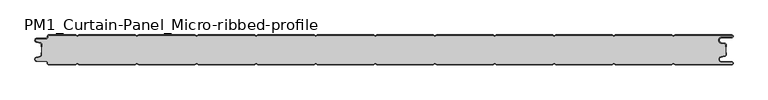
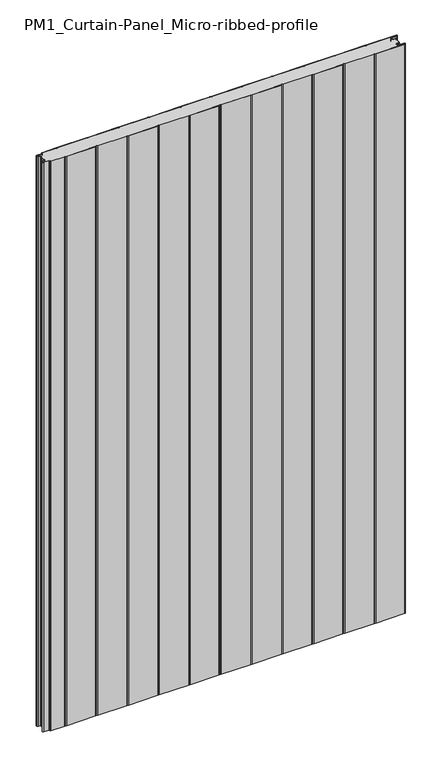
"""IFC4 building model written with IfcOpenShell, lengths in millimetres: plate geometry, PM1_Curtain-Panel_Micro-ribbed-profile : ACH_PM1_Stone-wool-Panel_50M."""

from ifc_helpers import new_model, si_unit, point, frame_2d, origin, origin_with_axes, place, context, project, spatial, polyline, circle_curve, trimmed, segment, composite_curve, outline, extrude, source, transform, mapped, element, save


def pm1_curtain_panel_micro_ribbed_profile_67f7228b(model_context):
    return source(origin(), model_context, "Body", "SweptSolid", [
        extrude(outline(composite_curve([segment(trimmed(circle_curve(frame_2d((-577.0, -15.878557)), 2.0), [point((-575.0, -15.878557))], [point((-576.5500978, -13.9298169))], True, "CARTESIAN"), True, "CONTINUOUS"), segment(polyline([(-576.5500978, -13.9298169), (-582.7098239, -12.507732)]), True, "CONTINUOUS"), segment(trimmed(circle_curve(frame_2d((-581.9, -9.0)), 3.6), [point((-582.7098239, -12.507732))], [point((-581.9, -5.4))], False, "CARTESIAN"), True, "CONTINUOUS"), segment(polyline([(-581.9, -5.4), (-566.4, -5.4)]), True, "CONTINUOUS"), segment(trimmed(circle_curve(frame_2d((-566.4, -3.4)), 2.0), [point((-566.4, -5.4))], [point((-564.4, -3.4))], True, "CARTESIAN"), True, "CONTINUOUS"), segment(polyline([(-564.4, -3.4), (-564.4, -2.0)]), True, "CONTINUOUS"), segment(trimmed(circle_curve(frame_2d((-562.4, -2.0)), 2.0), [point((-564.4, -2.0))], [point((-562.4, 0.0))], False, "CARTESIAN"), True, "CONTINUOUS"), segment(polyline([(-562.4, 0.0), (-517.0999995, 0.0), (-514.4, -1.5588455), (-511.7000005, 0.0), (-417.0999995, 0.0), (-414.4, -1.5588455), (-411.7000005, 0.0), (-317.0999995, 0.0), (-314.4, -1.5588455), (-311.7000005, 0.0), (-217.0999995, 0.0), (-214.4, -1.5588455), (-211.7000005, 0.0), (-117.0999995, 0.0), (-114.4, -1.5588455), (-111.7000005, 0.0), (-17.0999995, 0.0), (-14.4, -1.5588455), (-11.7000005, 0.0), (82.9000005, 0.0), (85.6, -1.5588455), (88.2999995, 0.0), (182.9000005, 0.0), (185.6, -1.5588455), (188.2999995, 0.0), (282.9000005, 0.0), (285.6, -1.5588455), (288.2999995, 0.0), (382.9000005, 0.0), (385.6, -1.5588455), (388.2999995, 0.0), (482.9000005, 0.0), (485.6, -1.5588455), (488.2999995, 0.0), (583.1, 0.0)]), True, "CONTINUOUS"), segment(trimmed(circle_curve(frame_2d((583.1, -2.5)), 2.5), [point((583.1, 0.0))], [point((583.1, -5.0))], False, "CARTESIAN"), True, "CONTINUOUS"), segment(polyline([(583.1, -5.0), (566.1, -5.0)]), True, "CONTINUOUS"), segment(trimmed(circle_curve(frame_2d((566.1, -9.0)), 4.0), [point((566.1, -5.0))], [point((565.405407, -12.939231))], True, "CARTESIAN"), True, "CONTINUOUS"), segment(polyline([(565.405407, -12.939231), (571.8514855, -14.0758491)]), True, "CONTINUOUS"), segment(trimmed(circle_curve(frame_2d((571.4, -16.6363492)), 2.6), [point((571.8514855, -14.0758491))], [point((574.0, -16.6363492))], False, "CARTESIAN"), True, "CONTINUOUS"), segment(polyline([(574.0, -16.6363492), (574.0, -20.0), (573.2, -20.0), (573.2, -16.6363492)]), True, "CONTINUOUS"), segment(trimmed(circle_curve(frame_2d((571.4, -16.6363492)), 1.8), [point((573.2, -16.6363492))], [point((571.7125669, -14.8636953))], True, "CARTESIAN"), True, "CONTINUOUS"), segment(polyline([(571.7125669, -14.8636953), (565.2664884, -13.7270772)]), True, "CONTINUOUS"), segment(trimmed(circle_curve(frame_2d((566.1, -9.0)), 4.8), [point((565.2664884, -13.7270772))], [point((566.1, -4.2))], False, "CARTESIAN"), True, "CONTINUOUS"), segment(polyline([(566.1, -4.2), (583.1, -4.2)]), True, "CONTINUOUS"), segment(trimmed(circle_curve(frame_2d((583.1, -2.5)), 1.7), [point((583.1, -4.2))], [point((583.1, -0.8))], True, "CARTESIAN"), True, "CONTINUOUS"), segment(polyline([(583.1, -0.8), (488.5143588, -0.8), (485.6, -2.482606), (482.6856412, -0.8), (388.5143588, -0.8), (385.6, -2.482606), (382.6856412, -0.8), (288.5143588, -0.8), (285.6, -2.482606), (282.6856412, -0.8), (188.5143588, -0.8), (185.6, -2.482606), (182.6856412, -0.8), (88.5143588, -0.8), (85.6, -2.482606), (82.6856412, -0.8), (-11.4856412, -0.8), (-14.4, -2.482606), (-17.3143588, -0.8), (-111.4856412, -0.8), (-114.4, -2.482606), (-117.3143588, -0.8), (-211.4856412, -0.8), (-214.4, -2.482606), (-217.3143588, -0.8), (-311.4856412, -0.8), (-314.4, -2.482606), (-317.3143588, -0.8), (-411.4856412, -0.8), (-414.4, -2.482606), (-417.3143588, -0.8), (-511.4856412, -0.8), (-514.4, -2.482606), (-517.3143588, -0.8), (-562.4, -0.8)]), True, "CONTINUOUS"), segment(trimmed(circle_curve(frame_2d((-562.4, -2.0)), 1.2), [point((-562.4, -0.8))], [point((-563.6, -2.0))], True, "CARTESIAN"), True, "CONTINUOUS"), segment(polyline([(-563.6, -2.0), (-563.6, -3.4)]), True, "CONTINUOUS"), segment(trimmed(circle_curve(frame_2d((-566.4, -3.4)), 2.8), [point((-563.6, -3.4))], [point((-566.4, -6.2))], False, "CARTESIAN"), True, "CONTINUOUS"), segment(polyline([(-566.4, -6.2), (-581.9, -6.2)]), True, "CONTINUOUS"), segment(trimmed(circle_curve(frame_2d((-581.9, -9.0)), 2.8), [point((-581.9, -6.2))], [point((-582.529863, -11.7282362))], True, "CARTESIAN"), True, "CONTINUOUS"), segment(polyline([(-582.529863, -11.7282362), (-576.370137, -13.150321)]), True, "CONTINUOUS"), segment(trimmed(circle_curve(frame_2d((-577.0, -15.878557)), 2.8), [point((-576.370137, -13.150321))], [point((-574.2, -15.878557))], False, "CARTESIAN"), True, "CONTINUOUS"), segment(polyline([(-574.2, -15.878557), (-574.2, -20.0), (-575.0, -20.0), (-575.0, -15.878557)]), True, "CONTINUOUS")], self_intersect=False)), origin_with_axes(), (0.0, 0.0, 1.0), 1945.7507136),
        extrude(outline(composite_curve([segment(polyline([(-574.2, -34.1214426), (-574.2, -15.8785573)]), True, "CONTINUOUS"), segment(trimmed(circle_curve(frame_2d((-577.0, -15.8785573)), 2.8), [point((-574.2, -15.8785573))], [point((-576.370137, -13.1503212))], True, "CARTESIAN"), True, "CONTINUOUS"), segment(polyline([(-576.370137, -13.1503212), (-582.5298631, -11.7282362)]), True, "CONTINUOUS"), segment(trimmed(circle_curve(frame_2d((-581.9, -9.0)), 2.8), [point((-582.5298631, -11.7282362))], [point((-581.9, -6.2))], False, "CARTESIAN"), True, "CONTINUOUS"), segment(polyline([(-581.9, -6.2), (-566.4000001, -6.2)]), True, "CONTINUOUS"), segment(trimmed(circle_curve(frame_2d((-566.4000001, -3.4)), 2.8), [point((-566.4000001, -6.2))], [point((-563.6000001, -3.4))], True, "CARTESIAN"), True, "CONTINUOUS"), segment(polyline([(-563.6000001, -3.4), (-563.6000001, -2.0)]), True, "CONTINUOUS"), segment(trimmed(circle_curve(frame_2d((-562.4000001, -2.0)), 1.2), [point((-563.6000001, -2.0))], [point((-562.4000001, -0.8))], False, "CARTESIAN"), True, "CONTINUOUS"), segment(polyline([(-562.4000001, -0.8), (-517.3143589, -0.8), (-514.4000001, -2.482606), (-511.4856412, -0.8), (-417.3143589, -0.8), (-414.4000001, -2.482606), (-411.4856412, -0.8), (-317.3143589, -0.8), (-314.4000001, -2.482606), (-311.4856412, -0.8), (-217.3143589, -0.8), (-214.4000001, -2.482606), (-211.4856412, -0.8), (-117.3143589, -0.8), (-114.4000001, -2.482606), (-111.4856412, -0.8), (-17.3143589, -0.8), (-14.4000001, -2.482606), (-11.4856412, -0.8), (82.6856411, -0.8), (85.5999999, -2.482606), (88.5143588, -0.8), (182.6856411, -0.8), (185.5999999, -2.482606), (188.5143588, -0.8), (282.6856411, -0.8), (285.5999999, -2.482606), (288.5143588, -0.8), (382.6856411, -0.8), (385.5999999, -2.482606), (388.5143588, -0.8), (482.6856411, -0.8), (485.6, -2.482606), (488.5143588, -0.8), (583.1, -0.8)]), True, "CONTINUOUS"), segment(trimmed(circle_curve(frame_2d((583.1, -2.5)), 1.7), [point((583.1, -0.8))], [point((583.1, -4.2))], False, "CARTESIAN"), True, "CONTINUOUS"), segment(polyline([(583.1, -4.2), (566.1, -4.2)]), True, "CONTINUOUS"), segment(trimmed(circle_curve(frame_2d((566.1, -9.0)), 4.8), [point((566.1, -4.2))], [point((565.2664883, -13.7270771))], True, "CARTESIAN"), True, "CONTINUOUS"), segment(polyline([(565.2664883, -13.7270771), (571.7125668, -14.8636953)]), True, "CONTINUOUS"), segment(trimmed(circle_curve(frame_2d((571.4, -16.6363492)), 1.8), [point((571.7125668, -14.8636953))], [point((573.2, -16.6363492))], False, "CARTESIAN"), True, "CONTINUOUS"), segment(polyline([(573.2, -16.6363492), (573.2, -33.3636508)]), True, "CONTINUOUS"), segment(trimmed(circle_curve(frame_2d((571.4, -33.3636508)), 1.8), [point((573.2, -33.3636508))], [point((571.7125668, -35.1363047))], False, "CARTESIAN"), True, "CONTINUOUS"), segment(polyline([(571.7125668, -35.1363047), (565.2664883, -36.2729229)]), True, "CONTINUOUS"), segment(trimmed(circle_curve(frame_2d((566.1, -41.0)), 4.8), [point((565.2664883, -36.2729229))], [point((566.1, -45.8))], True, "CARTESIAN"), True, "CONTINUOUS"), segment(polyline([(566.1, -45.8), (583.1, -45.8)]), True, "CONTINUOUS"), segment(trimmed(circle_curve(frame_2d((583.1, -47.5)), 1.7), [point((583.1, -45.8))], [point((583.1, -49.2))], False, "CARTESIAN"), True, "CONTINUOUS"), segment(polyline([(583.1, -49.2), (488.5143588, -49.2), (485.6, -47.517394), (482.6856411, -49.2), (388.5143588, -49.2), (385.5999999, -47.517394), (382.6856411, -49.2), (288.5143588, -49.2), (285.5999999, -47.517394), (282.6856411, -49.2), (188.5143588, -49.2), (185.5999999, -47.517394), (182.6856411, -49.2), (88.5143588, -49.2), (85.5999999, -47.517394), (82.6856411, -49.2), (-11.4856412, -49.2), (-14.4000001, -47.517394), (-17.3143589, -49.2), (-111.4856412, -49.2), (-114.4000001, -47.517394), (-117.3143589, -49.2), (-211.4856412, -49.2), (-214.4000001, -47.517394), (-217.3143589, -49.2), (-311.4856412, -49.2), (-314.4000001, -47.517394), (-317.3143589, -49.2), (-411.4856412, -49.2), (-414.4000001, -47.517394), (-417.3143589, -49.2), (-511.4856412, -49.2), (-514.4000001, -47.517394), (-517.3143589, -49.2), (-562.4000001, -49.2)]), True, "CONTINUOUS"), segment(trimmed(circle_curve(frame_2d((-562.4000001, -48.0)), 1.2), [point((-562.4000001, -49.2))], [point((-563.6000001, -48.0))], False, "CARTESIAN"), True, "CONTINUOUS"), segment(polyline([(-563.6000001, -48.0), (-563.6000001, -46.6)]), True, "CONTINUOUS"), segment(trimmed(circle_curve(frame_2d((-566.4000001, -46.6)), 2.8), [point((-563.6000001, -46.6))], [point((-566.4000001, -43.8))], True, "CARTESIAN"), True, "CONTINUOUS"), segment(polyline([(-566.4000001, -43.8), (-581.9, -43.8)]), True, "CONTINUOUS"), segment(trimmed(circle_curve(frame_2d((-581.9, -41.0)), 2.8), [point((-581.9, -43.8))], [point((-582.5298631, -38.2717638))], False, "CARTESIAN"), True, "CONTINUOUS"), segment(polyline([(-582.5298631, -38.2717638), (-576.370137, -36.8496788)]), True, "CONTINUOUS"), segment(trimmed(circle_curve(frame_2d((-577.0, -34.1214426)), 2.8), [point((-576.370137, -36.8496788))], [point((-574.2, -34.1214426))], True, "CARTESIAN"), True, "CONTINUOUS")], self_intersect=False)), origin_with_axes(), (0.0, 0.0, 1.0), 1945.7507136),
        extrude(outline(composite_curve([segment(polyline([(-575.0, -34.121443), (-575.0, -30.0), (-574.2, -30.0), (-574.2, -34.121443)]), True, "CONTINUOUS"), segment(trimmed(circle_curve(frame_2d((-577.0, -34.121443)), 2.8), [point((-574.2, -34.121443))], [point((-576.370137, -36.8496792))], False, "CARTESIAN"), True, "CONTINUOUS"), segment(polyline([(-576.370137, -36.8496792), (-582.529863, -38.271764)]), True, "CONTINUOUS"), segment(trimmed(circle_curve(frame_2d((-581.9, -41.0)), 2.8), [point((-582.529863, -38.271764))], [point((-581.9, -43.8))], True, "CARTESIAN"), True, "CONTINUOUS"), segment(polyline([(-581.9, -43.8), (-566.4, -43.8)]), True, "CONTINUOUS"), segment(trimmed(circle_curve(frame_2d((-566.4, -46.6)), 2.8), [point((-566.4, -43.8))], [point((-563.6, -46.6))], False, "CARTESIAN"), True, "CONTINUOUS"), segment(polyline([(-563.6, -46.6), (-563.6, -48.0)]), True, "CONTINUOUS"), segment(trimmed(circle_curve(frame_2d((-562.4, -48.0)), 1.2), [point((-563.6, -48.0))], [point((-562.4, -49.2))], True, "CARTESIAN"), True, "CONTINUOUS"), segment(polyline([(-562.4, -49.2), (-517.3143588, -49.2), (-514.4, -47.517394), (-511.4856412, -49.2), (-417.3143588, -49.2), (-414.4, -47.517394), (-411.4856412, -49.2), (-317.3143588, -49.2), (-314.4, -47.517394), (-311.4856412, -49.2), (-217.3143588, -49.2), (-214.4, -47.517394), (-211.4856412, -49.2), (-117.3143588, -49.2), (-114.4, -47.517394), (-111.4856412, -49.2), (-17.3143588, -49.2), (-14.4, -47.517394), (-11.4856412, -49.2), (82.6856412, -49.2), (85.6, -47.517394), (88.5143588, -49.2), (182.6856412, -49.2), (185.6, -47.517394), (188.5143588, -49.2), (282.6856412, -49.2), (285.6, -47.517394), (288.5143588, -49.2), (382.6856412, -49.2), (385.6, -47.517394), (388.5143588, -49.2), (482.6856412, -49.2), (485.6, -47.517394), (488.5143588, -49.2), (583.1, -49.2)]), True, "CONTINUOUS"), segment(trimmed(circle_curve(frame_2d((583.1, -47.5)), 1.7), [point((583.1, -49.2))], [point((583.1, -45.8))], True, "CARTESIAN"), True, "CONTINUOUS"), segment(polyline([(583.1, -45.8), (566.1, -45.8)]), True, "CONTINUOUS"), segment(trimmed(circle_curve(frame_2d((566.1, -41.0)), 4.8), [point((566.1, -45.8))], [point((565.2664884, -36.2729229))], False, "CARTESIAN"), True, "CONTINUOUS"), segment(polyline([(565.2664884, -36.2729229), (571.7125669, -35.1363047)]), True, "CONTINUOUS"), segment(trimmed(circle_curve(frame_2d((571.4, -33.3636508)), 1.8), [point((571.7125669, -35.1363047))], [point((573.2, -33.3636508))], True, "CARTESIAN"), True, "CONTINUOUS"), segment(polyline([(573.2, -33.3636508), (573.2, -30.0), (574.0, -30.0), (574.0, -33.3636508)]), True, "CONTINUOUS"), segment(trimmed(circle_curve(frame_2d((571.4, -33.3636508)), 2.6), [point((574.0, -33.3636508))], [point((571.8514855, -35.9241509))], False, "CARTESIAN"), True, "CONTINUOUS"), segment(polyline([(571.8514855, -35.9241509), (565.405407, -37.060769)]), True, "CONTINUOUS"), segment(trimmed(circle_curve(frame_2d((566.1, -41.0)), 4.0), [point((565.405407, -37.060769))], [point((566.1, -45.0))], True, "CARTESIAN"), True, "CONTINUOUS"), segment(polyline([(566.1, -45.0), (583.1, -45.0)]), True, "CONTINUOUS"), segment(trimmed(circle_curve(frame_2d((583.1, -47.5)), 2.5), [point((583.1, -45.0))], [point((583.1, -50.0))], False, "CARTESIAN"), True, "CONTINUOUS"), segment(polyline([(583.1, -50.0), (488.2999995, -50.0), (485.6, -48.4411545), (482.9000005, -50.0), (388.2999995, -50.0), (385.6, -48.4411545), (382.9000005, -50.0), (288.2999995, -50.0), (285.6, -48.4411545), (282.9000005, -50.0), (188.2999995, -50.0), (185.6, -48.4411545), (182.9000005, -50.0), (88.2999995, -50.0), (85.6, -48.4411545), (82.9000005, -50.0), (-11.7000005, -50.0), (-14.4, -48.4411545), (-17.0999995, -50.0), (-111.7000005, -50.0), (-114.4, -48.4411545), (-117.0999995, -50.0), (-211.7000005, -50.0), (-214.4, -48.4411545), (-217.0999995, -50.0), (-311.7000005, -50.0), (-314.4, -48.4411545), (-317.0999995, -50.0), (-411.7000005, -50.0), (-414.4, -48.4411545), (-417.0999995, -50.0), (-511.7000005, -50.0), (-514.4, -48.4411545), (-517.0999995, -50.0), (-562.4, -50.0)]), True, "CONTINUOUS"), segment(trimmed(circle_curve(frame_2d((-562.4, -48.0)), 2.0), [point((-562.4, -50.0))], [point((-564.4, -48.0))], False, "CARTESIAN"), True, "CONTINUOUS"), segment(polyline([(-564.4, -48.0), (-564.4, -46.6)]), True, "CONTINUOUS"), segment(trimmed(circle_curve(frame_2d((-566.4, -46.6)), 2.0), [point((-564.4, -46.6))], [point((-566.4, -44.6))], True, "CARTESIAN"), True, "CONTINUOUS"), segment(polyline([(-566.4, -44.6), (-581.9, -44.6)]), True, "CONTINUOUS"), segment(trimmed(circle_curve(frame_2d((-581.9, -41.0)), 3.6), [point((-581.9, -44.6))], [point((-582.7098239, -37.4922678))], False, "CARTESIAN"), True, "CONTINUOUS"), segment(polyline([(-582.7098239, -37.4922678), (-576.5500979, -36.070183)]), True, "CONTINUOUS"), segment(trimmed(circle_curve(frame_2d((-577.0, -34.121443)), 2.0), [point((-576.5500979, -36.070183))], [point((-575.0, -34.121443))], True, "CARTESIAN"), True, "CONTINUOUS")], self_intersect=False)), origin_with_axes(), (0.0, 0.0, 1.0), 1945.7507136),
    ])


if __name__ == "__main__":
    model = new_model("IFC4")
    model_context = context("Model", 3, world=origin())
    ifc_project = project(units=[si_unit("LENGTHUNIT", "METRE", prefix="MILLI")], contexts=[model_context])
    site = spatial("IfcSite", under=ifc_project)
    building = spatial("IfcBuilding", under=site)
    placement = place(None, origin())
    pm1_curtain_panel_micro_ribbed_profile_shape = pm1_curtain_panel_micro_ribbed_profile_67f7228b(model_context)
    element("IfcPlate", 1, ObjectType="PM1_Curtain-Panel_Micro-ribbed-profile : ACH_PM1_Stone-wool-Panel_50M", at=placement, inside=building, context=model_context, shape_type="MappedRepresentation", body=[
        mapped(pm1_curtain_panel_micro_ribbed_profile_shape, transform((0.0, 0.0, 0.0), x_axis=(1.0, 0.0, 0.0), y_axis=(0.0, 1.0, 0.0), z_axis=(0.0, 0.0, 1.0))),
    ])
    save(model, "model.ifc")
